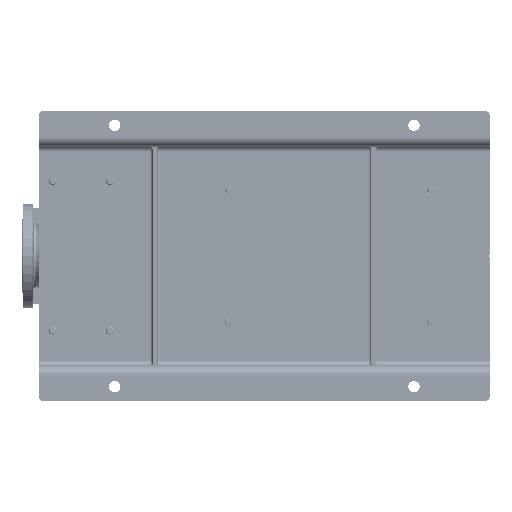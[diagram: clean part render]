
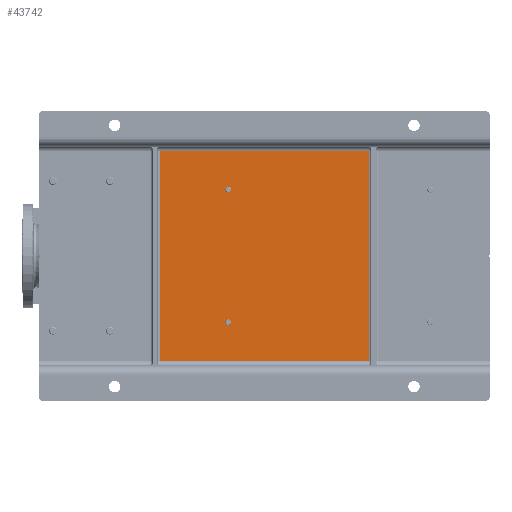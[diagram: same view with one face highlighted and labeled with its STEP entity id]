
A CAD part, front view. The second image highlights one B-rep face of the part: STEP entity #43742.
In plain terms, the highlighted planar face has unit normal (0, -1, 0).
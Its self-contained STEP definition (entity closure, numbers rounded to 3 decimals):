
#3585 = VECTOR ( 'NONE', #107353, 1000. ) ;
#5089 = DIRECTION ( 'NONE',  ( 0., 0., -1. ) ) ;
#5780 = VERTEX_POINT ( 'NONE', #199142 ) ;
#7153 = ORIENTED_EDGE ( 'NONE', *, *, #170144, .T. ) ;
#8448 = VERTEX_POINT ( 'NONE', #143806 ) ;
#13944 = CARTESIAN_POINT ( 'NONE',  ( 75., 65., -255. ) ) ;
#14572 = CARTESIAN_POINT ( 'NONE',  ( 444.5, 65., -399. ) ) ;
#14798 = CIRCLE ( 'NONE', #173249, 6. ) ;
#16278 = VECTOR ( 'NONE', #60225, 1000. ) ;
#20145 = LINE ( 'NONE', #134239, #167507 ) ;
#22324 = CARTESIAN_POINT ( 'NONE',  ( 525., 65., -695. ) ) ;
#24027 = ORIENTED_EDGE ( 'NONE', *, *, #179198, .T. ) ;
#31448 = FACE_OUTER_BOUND ( 'NONE', #212705, .T. ) ;
#32672 = DIRECTION ( 'NONE',  ( 0., 0., -1. ) ) ;
#36336 = DIRECTION ( 'NONE',  ( 1., 0., 0. ) ) ;
#38614 = DIRECTION ( 'NONE',  ( 0., 1., 0. ) ) ;
#43742 = ADVANCED_FACE ( 'NONE', ( #71083, #164177, #31448 ), #239878, .T. ) ;
#46091 = CIRCLE ( 'NONE', #212545, 6. ) ;
#51073 = EDGE_CURVE ( 'NONE', #5780, #145798, #108159, .T. ) ;
#51809 = DIRECTION ( 'NONE',  ( 0., 1., 0. ) ) ;
#53867 = EDGE_CURVE ( 'NONE', #60678, #92322, #14798, .T. ) ;
#58431 = CARTESIAN_POINT ( 'NONE',  ( 165.5, 65., -399. ) ) ;
#60225 = DIRECTION ( 'NONE',  ( 0., 0., 1. ) ) ;
#60678 = VERTEX_POINT ( 'NONE', #146598 ) ;
#71083 = FACE_BOUND ( 'NONE', #108724, .T. ) ;
#73178 = EDGE_CURVE ( 'NONE', #234437, #8448, #99452, .T. ) ;
#74059 = DIRECTION ( 'NONE',  ( 0., 0., 1. ) ) ;
#75453 = EDGE_LOOP ( 'NONE', ( #173636, #7153 ) ) ;
#77800 = ORIENTED_EDGE ( 'NONE', *, *, #51073, .T. ) ;
#79433 = AXIS2_PLACEMENT_3D ( 'NONE', #182760, #105800, #32672 ) ;
#80944 = DIRECTION ( 'NONE',  ( 0., 1., 0. ) ) ;
#92322 = VERTEX_POINT ( 'NONE', #174509 ) ;
#97036 = DIRECTION ( 'NONE',  ( 0., 0., 1. ) ) ;
#99452 = CIRCLE ( 'NONE', #190679, 6. ) ;
#101718 = VECTOR ( 'NONE', #110588, 1000. ) ;
#104893 = CARTESIAN_POINT ( 'NONE',  ( 85., 65., -700. ) ) ;
#105800 = DIRECTION ( 'NONE',  ( 0., -1., 0. ) ) ;
#106028 = DIRECTION ( 'NONE',  ( 0., 0., -1. ) ) ;
#107353 = DIRECTION ( 'NONE',  ( 0., 0., -1. ) ) ;
#108159 = LINE ( 'NONE', #13944, #101718 ) ;
#108724 = EDGE_LOOP ( 'NONE', ( #229778, #144511 ) ) ;
#110588 = DIRECTION ( 'NONE',  ( -1., 0., 0. ) ) ;
#114321 = CARTESIAN_POINT ( 'NONE',  ( 85., 65., -695. ) ) ;
#120927 = CARTESIAN_POINT ( 'NONE',  ( 85., 65., -255. ) ) ;
#130394 = EDGE_CURVE ( 'NONE', #8448, #234437, #201510, .T. ) ;
#134239 = CARTESIAN_POINT ( 'NONE',  ( 75., 65., -695. ) ) ;
#135518 = CARTESIAN_POINT ( 'NONE',  ( 444.5, 65., -399. ) ) ;
#138393 = ORIENTED_EDGE ( 'NONE', *, *, #238621, .T. ) ;
#143329 = CARTESIAN_POINT ( 'NONE',  ( 165.5, 65., -399. ) ) ;
#143806 = CARTESIAN_POINT ( 'NONE',  ( 165.5, 65., -393. ) ) ;
#144511 = ORIENTED_EDGE ( 'NONE', *, *, #73178, .T. ) ;
#144555 = DIRECTION ( 'NONE',  ( 0., 1., 0. ) ) ;
#145798 = VERTEX_POINT ( 'NONE', #120927 ) ;
#146598 = CARTESIAN_POINT ( 'NONE',  ( 444.5, 65., -393. ) ) ;
#146918 = EDGE_CURVE ( 'NONE', #145798, #155818, #201676, .T. ) ;
#147596 = VERTEX_POINT ( 'NONE', #22324 ) ;
#155818 = VERTEX_POINT ( 'NONE', #114321 ) ;
#164177 = FACE_BOUND ( 'NONE', #75453, .T. ) ;
#167507 = VECTOR ( 'NONE', #36336, 1000. ) ;
#169252 = AXIS2_PLACEMENT_3D ( 'NONE', #58431, #38614, #5089 ) ;
#170144 = EDGE_CURVE ( 'NONE', #92322, #60678, #46091, .T. ) ;
#173249 = AXIS2_PLACEMENT_3D ( 'NONE', #135518, #80944, #97036 ) ;
#173636 = ORIENTED_EDGE ( 'NONE', *, *, #53867, .T. ) ;
#174509 = CARTESIAN_POINT ( 'NONE',  ( 444.5, 65., -405. ) ) ;
#176792 = LINE ( 'NONE', #215238, #16278 ) ;
#179198 = EDGE_CURVE ( 'NONE', #147596, #5780, #176792, .T. ) ;
#182760 = CARTESIAN_POINT ( 'NONE',  ( 75., 65., -950. ) ) ;
#183069 = ORIENTED_EDGE ( 'NONE', *, *, #146918, .T. ) ;
#190679 = AXIS2_PLACEMENT_3D ( 'NONE', #143329, #144555, #106028 ) ;
#196674 = CARTESIAN_POINT ( 'NONE',  ( 165.5, 65., -405. ) ) ;
#199142 = CARTESIAN_POINT ( 'NONE',  ( 525., 65., -255. ) ) ;
#201510 = CIRCLE ( 'NONE', #169252, 6. ) ;
#201676 = LINE ( 'NONE', #104893, #3585 ) ;
#212545 = AXIS2_PLACEMENT_3D ( 'NONE', #14572, #51809, #74059 ) ;
#212705 = EDGE_LOOP ( 'NONE', ( #183069, #138393, #24027, #77800 ) ) ;
#215238 = CARTESIAN_POINT ( 'NONE',  ( 525., 65., -250. ) ) ;
#229778 = ORIENTED_EDGE ( 'NONE', *, *, #130394, .T. ) ;
#234437 = VERTEX_POINT ( 'NONE', #196674 ) ;
#238621 = EDGE_CURVE ( 'NONE', #155818, #147596, #20145, .T. ) ;
#239878 = PLANE ( 'NONE',  #79433 ) ;
